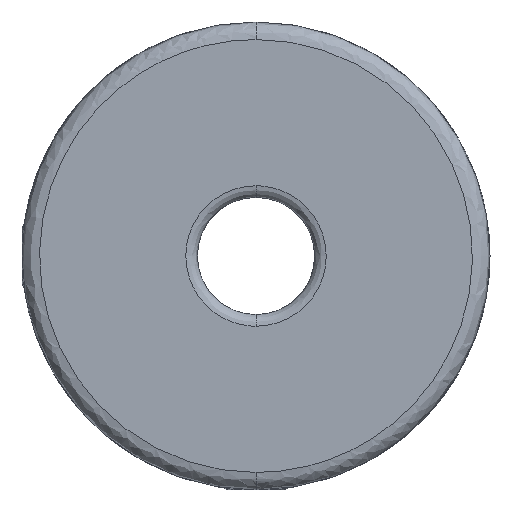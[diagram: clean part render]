
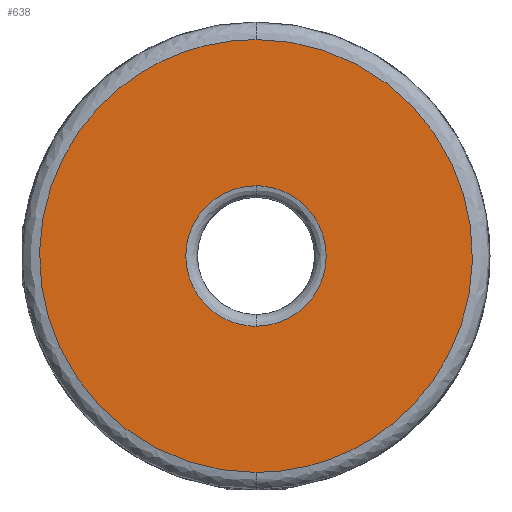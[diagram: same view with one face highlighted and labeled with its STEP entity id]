
A CAD part, left-side view. The second image highlights one B-rep face of the part: STEP entity #638.
In plain terms, the highlighted planar face has unit normal (-1, 0, 0).
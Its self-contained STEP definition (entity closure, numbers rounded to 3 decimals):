
#209 = VERTEX_POINT ( 'NONE', #1318 ) ;
#225 = VERTEX_POINT ( 'NONE', #1654 ) ;
#226 = VERTEX_POINT ( 'NONE', #1693 ) ;
#227 = EDGE_CURVE ( 'NONE', #225, #226, #1741, .T. ) ;
#335 = EDGE_CURVE ( 'NONE', #209, #339, #1956, .T. ) ;
#339 = VERTEX_POINT ( 'NONE', #1951 ) ;
#610 = EDGE_CURVE ( 'NONE', #339, #209, #2952, .T. ) ;
#629 = EDGE_CURVE ( 'NONE', #226, #225, #3278, .T. ) ;
#638 = ADVANCED_FACE ( 'NONE', ( #3219, #3218 ), #3221, .F. ) ;
#639 = EDGE_LOOP ( 'NONE', ( #640, #641 ) ) ;
#640 = ORIENTED_EDGE ( 'NONE', *, *, #610, .F. ) ;
#641 = ORIENTED_EDGE ( 'NONE', *, *, #335, .F. ) ;
#642 = EDGE_LOOP ( 'NONE', ( #643, #644 ) ) ;
#643 = ORIENTED_EDGE ( 'NONE', *, *, #227, .F. ) ;
#644 = ORIENTED_EDGE ( 'NONE', *, *, #629, .F. ) ;
#1318 = CARTESIAN_POINT ( 'NONE',  ( -10., 0., 9.25 ) ) ;
#1654 = CARTESIAN_POINT ( 'NONE',  ( -10., 0., -3. ) ) ;
#1693 = CARTESIAN_POINT ( 'NONE',  ( -10., 0., 3. ) ) ;
#1737 = CARTESIAN_POINT ( 'NONE',  ( -10., 0., 3. ) ) ;
#1738 = CARTESIAN_POINT ( 'NONE',  ( -10., -6., 3. ) ) ;
#1739 = CARTESIAN_POINT ( 'NONE',  ( -10., -6., -3. ) ) ;
#1740 = CARTESIAN_POINT ( 'NONE',  ( -10., 0., -3. ) ) ;
#1741 =( BOUNDED_CURVE ( )  B_SPLINE_CURVE ( 3, ( #1740, #1739, #1738, #1737 ),
 .UNSPECIFIED., .F., .T. ) 
 B_SPLINE_CURVE_WITH_KNOTS ( ( 4, 4 ),
 ( 0., 0.5 ),
 .UNSPECIFIED. ) 
 CURVE ( )  GEOMETRIC_REPRESENTATION_ITEM ( )  RATIONAL_B_SPLINE_CURVE ( ( 1., 0.333, 0.333, 1. ) ) 
 REPRESENTATION_ITEM ( '' )  );
#1951 = CARTESIAN_POINT ( 'NONE',  ( -10., 0., -9.25 ) ) ;
#1952 = CARTESIAN_POINT ( 'NONE',  ( -10., 0., -9.25 ) ) ;
#1953 = CARTESIAN_POINT ( 'NONE',  ( -10., -18.5, -9.25 ) ) ;
#1954 = CARTESIAN_POINT ( 'NONE',  ( -10., -18.5, 9.25 ) ) ;
#1955 = CARTESIAN_POINT ( 'NONE',  ( -10., 0., 9.25 ) ) ;
#1956 =( BOUNDED_CURVE ( )  B_SPLINE_CURVE ( 3, ( #1955, #1954, #1953, #1952 ),
 .UNSPECIFIED., .F., .T. ) 
 B_SPLINE_CURVE_WITH_KNOTS ( ( 4, 4 ),
 ( 0.5, 1. ),
 .UNSPECIFIED. ) 
 CURVE ( )  GEOMETRIC_REPRESENTATION_ITEM ( )  RATIONAL_B_SPLINE_CURVE ( ( 1., 0.333, 0.333, 1. ) ) 
 REPRESENTATION_ITEM ( '' )  );
#2904 = CARTESIAN_POINT ( 'NONE',  ( -10., 0., 9.25 ) ) ;
#2905 = CARTESIAN_POINT ( 'NONE',  ( -10., 18.5, 9.25 ) ) ;
#2906 = CARTESIAN_POINT ( 'NONE',  ( -10., 18.5, -9.25 ) ) ;
#2907 = CARTESIAN_POINT ( 'NONE',  ( -10., 0., -9.25 ) ) ;
#2952 =( BOUNDED_CURVE ( )  B_SPLINE_CURVE ( 3, ( #2907, #2906, #2905, #2904 ),
 .UNSPECIFIED., .F., .T. ) 
 B_SPLINE_CURVE_WITH_KNOTS ( ( 4, 4 ),
 ( 0., 0.5 ),
 .UNSPECIFIED. ) 
 CURVE ( )  GEOMETRIC_REPRESENTATION_ITEM ( )  RATIONAL_B_SPLINE_CURVE ( ( 1., 0.333, 0.333, 1. ) ) 
 REPRESENTATION_ITEM ( '' )  );
#3106 = CARTESIAN_POINT ( 'NONE',  ( -10., 0., -3. ) ) ;
#3107 = CARTESIAN_POINT ( 'NONE',  ( -10., 6., -3. ) ) ;
#3108 = CARTESIAN_POINT ( 'NONE',  ( -10., 6., 3. ) ) ;
#3109 = CARTESIAN_POINT ( 'NONE',  ( -10., 0., 3. ) ) ;
#3214 = DIRECTION ( 'NONE',  ( 0., 0., -1. ) ) ;
#3215 = DIRECTION ( 'NONE',  ( 1., 0., 0. ) ) ;
#3216 = CARTESIAN_POINT ( 'NONE',  ( -10., 0., 0. ) ) ;
#3217 = AXIS2_PLACEMENT_3D ( 'NONE', #3216, #3215, #3214 ) ;
#3218 = FACE_BOUND ( 'NONE', #642, .T. ) ;
#3219 = FACE_OUTER_BOUND ( 'NONE', #639, .T. ) ;
#3221 = PLANE ( 'NONE',  #3217 ) ;
#3278 =( BOUNDED_CURVE ( )  B_SPLINE_CURVE ( 3, ( #3109, #3108, #3107, #3106 ),
 .UNSPECIFIED., .F., .T. ) 
 B_SPLINE_CURVE_WITH_KNOTS ( ( 4, 4 ),
 ( 0.5, 1. ),
 .UNSPECIFIED. ) 
 CURVE ( )  GEOMETRIC_REPRESENTATION_ITEM ( )  RATIONAL_B_SPLINE_CURVE ( ( 1., 0.333, 0.333, 1. ) ) 
 REPRESENTATION_ITEM ( '' )  );
